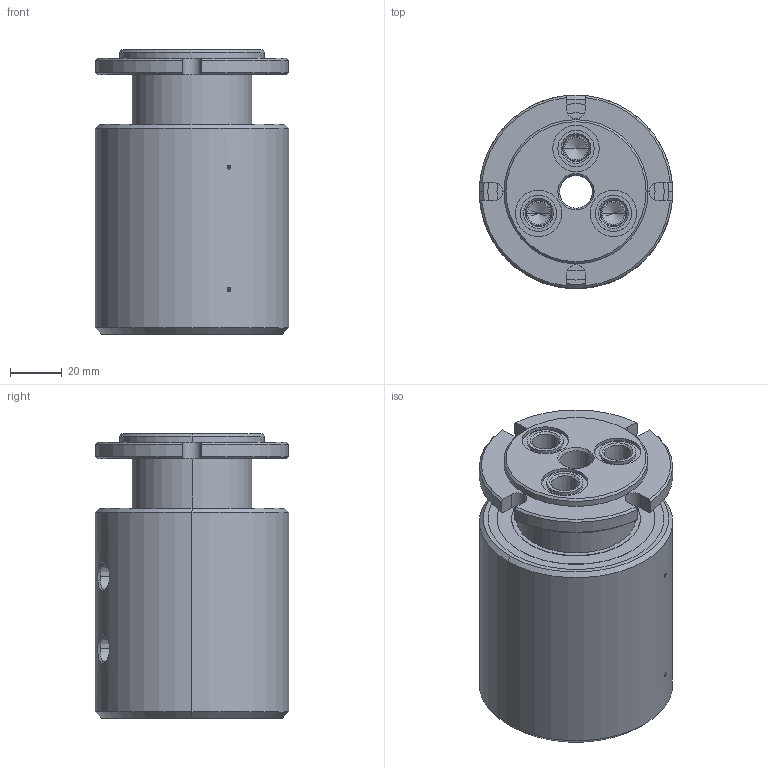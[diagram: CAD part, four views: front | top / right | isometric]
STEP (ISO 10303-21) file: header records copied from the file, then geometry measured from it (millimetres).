
FILE_DESCRIPTION (( 'STEP AP214' ), '1' );
FILE_NAME ('GP(M)-131.STEP', '2013-02-05T22:03:20', ( '' ), ( '' ), 'SwSTEP 2.0', 'SolidWorks 2011', '' );
FILE_SCHEMA (( 'AUTOMOTIVE_DESIGN' ));
Length unit declared in the file: inch
Products named in the file (1): GP(M)-131
Bounding box: 74.6 x 74.6 x 109.5 mm (x, y, z)
Volume: 390977.2 mm3; surface area: 46240.9 mm2
Topology: 1 solids, 1 shells, 198 faces, 468 edges, 281 vertices
Faces by surface type: cylinder 85, cone 66, plane 39, bspline 6, torus 2
Entity records: 6897 total; most frequent: CARTESIAN_POINT 1598, DIRECTION 994, ORIENTED_EDGE 876, EDGE_CURVE 438, AXIS2_PLACEMENT_3D 407, VERTEX_POINT 281, EDGE_LOOP 239, CIRCLE 214
